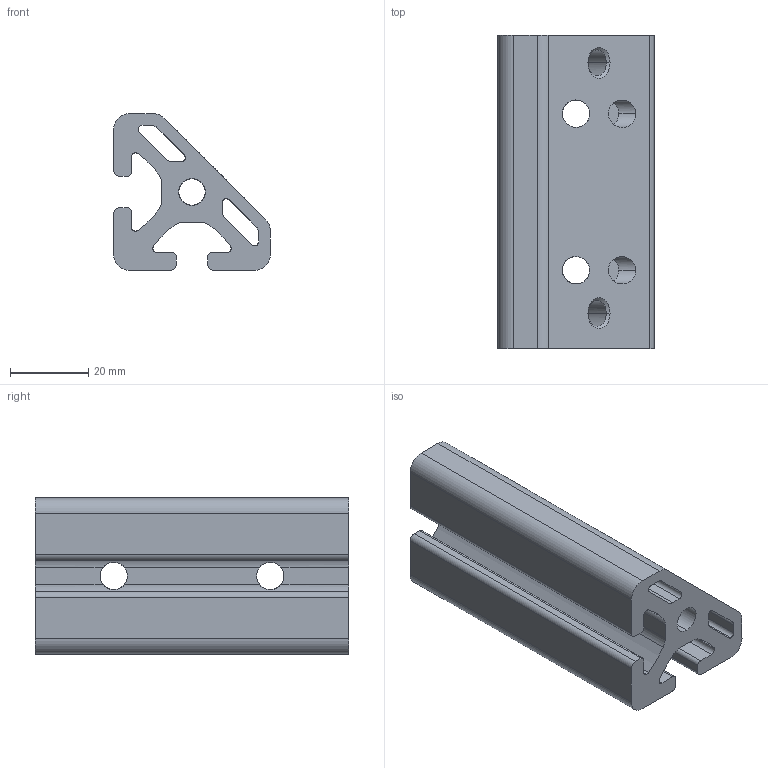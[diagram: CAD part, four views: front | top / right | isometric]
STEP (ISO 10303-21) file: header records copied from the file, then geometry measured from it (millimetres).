
FILE_DESCRIPTION (( 'STEP AP203' ), '1' );
FILE_NAME ('0108WT1-80.STEP', '2024-09-06T11:45:49', ( 'Windows-Benutzer' ), ( '' ), 'SwSTEP 2.0', 'SolidWorks 2024', '' );
FILE_SCHEMA (( 'CONFIG_CONTROL_DESIGN' ));
Length unit declared in the file: millimetre
Products named in the file (5): 0.0.388.01_2; 0108WT1-80; 0.0.388.01_1_2; 0.0.388.01_1
Assembly tree (4 placements, depth 3):
  0108WT1-80
    0.0.388.01_1
      0.0.388.01_1
      0.0.388.01_1_2
    0.0.388.01_2
Bounding box: 40 x 80 x 40 mm (x, y, z)
Volume: 56866.4 mm3; surface area: 27295.9 mm2
Topology: 3 solids, 3 shells, 132 faces, 430 edges, 280 vertices
Faces by surface type: cylinder 85, plane 39, cone 8
Entity records: 6655 total; most frequent: CARTESIAN_POINT 2422, ORIENTED_EDGE 860, DIRECTION 724, EDGE_CURVE 430, VERTEX_POINT 280, AXIS2_PLACEMENT_3D 266, LINE 192, VECTOR 192
